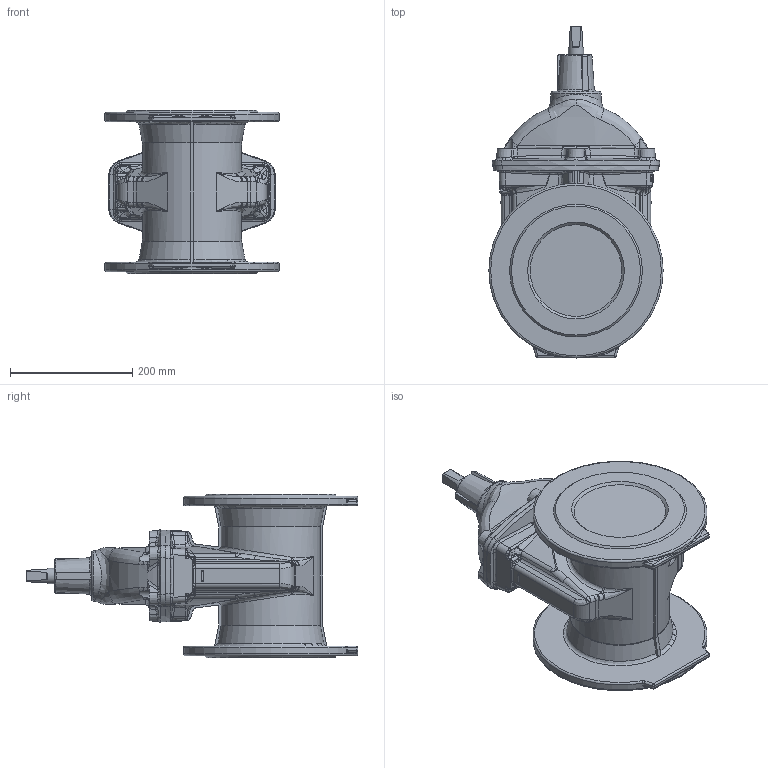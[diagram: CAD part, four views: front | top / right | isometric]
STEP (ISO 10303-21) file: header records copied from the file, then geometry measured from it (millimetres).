
FILE_DESCRIPTION (( 'STEP AP203' ), '1' );
FILE_NAME ('O_02_20_DN150_XXXXX9.STEP', '2014-07-14T07:43:37', ( '' ), ( '' ), 'SwSTEP 2.0', 'SolidWorks 2012', '' );
FILE_SCHEMA (( 'CONFIG_CONTROL_DESIGN' ));
Length unit declared in the file: millimetre
Products named in the file (1): O_02_20_DN150_XXXXX9
Bounding box: 285 x 542.52 x 267 mm (x, y, z)
Volume: 11929849.4 mm3; surface area: 538015.4 mm2
Topology: 1 solids, 1 shells, 824 faces, 2071 edges, 1239 vertices
Faces by surface type: bspline 354, plane 204, cylinder 137, cone 63, torus 50, sphere 16
Full cylindrical faces by diameter (mm): 25 x1, 82.4 x1, 285 x2
Entity records: 36832 total; most frequent: CARTESIAN_POINT 20384, ORIENTED_EDGE 4018, DIRECTION 2618, EDGE_CURVE 2009, VERTEX_POINT 1225, AXIS2_PLACEMENT_3D 1012, EDGE_LOOP 866, FACE_OUTER_BOUND 836
